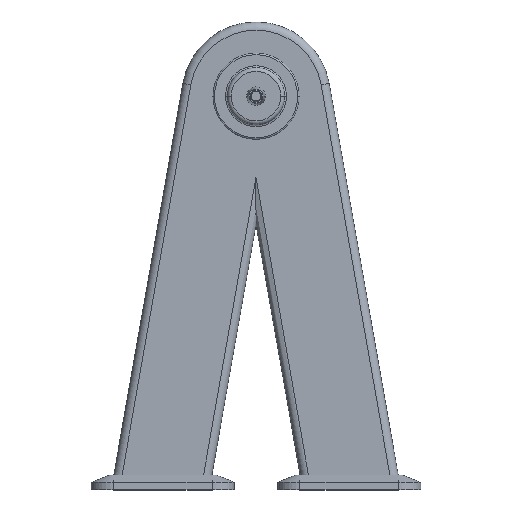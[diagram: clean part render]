
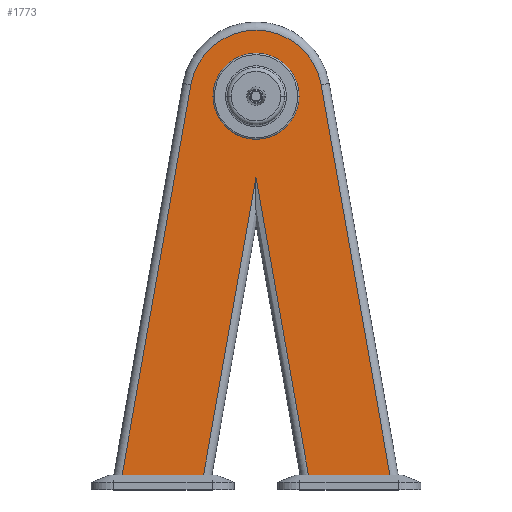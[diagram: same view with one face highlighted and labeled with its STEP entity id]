
A CAD part, top view. The second image highlights one B-rep face of the part: STEP entity #1773.
In plain terms, the highlighted planar face has unit normal (0, 0, 1).
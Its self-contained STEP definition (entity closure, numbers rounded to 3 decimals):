
#2 = CARTESIAN_POINT ( 'NONE',  ( 58., 530., 63. ) ) ;
#5 = VERTEX_POINT ( 'NONE', #2466 ) ;
#35 = ORIENTED_EDGE ( 'NONE', *, *, #2425, .F. ) ;
#63 = LINE ( 'NONE', #234, #763 ) ;
#193 = DIRECTION ( 'NONE',  ( -1., 0., 0. ) ) ;
#214 = CARTESIAN_POINT ( 'NONE',  ( -10.833, 359.147, 63. ) ) ;
#234 = CARTESIAN_POINT ( 'NONE',  ( 0., 20., 63. ) ) ;
#298 = EDGE_CURVE ( 'NONE', #2737, #5, #1933, .T. ) ;
#310 = CARTESIAN_POINT ( 'NONE',  ( 0., 20., 63. ) ) ;
#324 = ORIENTED_EDGE ( 'NONE', *, *, #298, .T. ) ;
#344 = EDGE_CURVE ( 'NONE', #2021, #2150, #692, .T. ) ;
#347 = EDGE_CURVE ( 'NONE', #2737, #2150, #63, .T. ) ;
#402 = PLANE ( 'NONE',  #2216 ) ;
#528 = DIRECTION ( 'NONE',  ( 0., 0., 1. ) ) ;
#609 = VERTEX_POINT ( 'NONE', #792 ) ;
#627 = DIRECTION ( 'NONE',  ( 1., 0., 0. ) ) ;
#692 = LINE ( 'NONE', #2349, #1727 ) ;
#703 = CARTESIAN_POINT ( 'NONE',  ( -87.648, 545.455, 63. ) ) ;
#760 = AXIS2_PLACEMENT_3D ( 'NONE', #933, #2387, #1147 ) ;
#763 = VECTOR ( 'NONE', #1108, 1000. ) ;
#792 = CARTESIAN_POINT ( 'NONE',  ( -58., 530., 63. ) ) ;
#841 = AXIS2_PLACEMENT_3D ( 'NONE', #1782, #528, #1998 ) ;
#842 = CIRCLE ( 'NONE', #1120, 58. ) ;
#894 = DIRECTION ( 'NONE',  ( -0.174, -0.985, 0. ) ) ;
#904 = ORIENTED_EDGE ( 'NONE', *, *, #1528, .F. ) ;
#933 = CARTESIAN_POINT ( 'NONE',  ( 0., 530., 63. ) ) ;
#959 = CARTESIAN_POINT ( 'NONE',  ( 0., 530., 63. ) ) ;
#960 = VECTOR ( 'NONE', #1505, 1000. ) ;
#1044 = CARTESIAN_POINT ( 'NONE',  ( 76.746, -14.664, 63. ) ) ;
#1108 = DIRECTION ( 'NONE',  ( -1., 0., 0. ) ) ;
#1120 = AXIS2_PLACEMENT_3D ( 'NONE', #959, #2417, #1172 ) ;
#1134 = VERTEX_POINT ( 'NONE', #1238 ) ;
#1143 = LINE ( 'NONE', #1044, #2240 ) ;
#1147 = DIRECTION ( 'NONE',  ( 1., 0., 0. ) ) ;
#1172 = DIRECTION ( 'NONE',  ( 1., 0., 0. ) ) ;
#1225 = CARTESIAN_POINT ( 'NONE',  ( 87.648, 545.455, 63. ) ) ;
#1238 = CARTESIAN_POINT ( 'NONE',  ( 180.3, 20., 63. ) ) ;
#1505 = DIRECTION ( 'NONE',  ( 0.174, 0.985, 0. ) ) ;
#1525 = EDGE_CURVE ( 'NONE', #2317, #2021, #1950, .T. ) ;
#1528 = EDGE_CURVE ( 'NONE', #609, #2513, #842, .T. ) ;
#1642 = LINE ( 'NONE', #2470, #2027 ) ;
#1681 = ORIENTED_EDGE ( 'NONE', *, *, #2801, .T. ) ;
#1727 = VECTOR ( 'NONE', #894, 1000. ) ;
#1773 = ADVANCED_FACE ( 'NONE', ( #2477, #1981 ), #402, .T. ) ;
#1778 = CARTESIAN_POINT ( 'NONE',  ( -180.3, 20., 63. ) ) ;
#1782 = CARTESIAN_POINT ( 'NONE',  ( 0., 530., 63. ) ) ;
#1877 = DIRECTION ( 'NONE',  ( 0., 0., 1. ) ) ;
#1878 = LINE ( 'NONE', #310, #2432 ) ;
#1890 = VERTEX_POINT ( 'NONE', #2542 ) ;
#1894 = ORIENTED_EDGE ( 'NONE', *, *, #347, .F. ) ;
#1933 = LINE ( 'NONE', #214, #960 ) ;
#1950 = CIRCLE ( 'NONE', #841, 89. ) ;
#1981 = FACE_OUTER_BOUND ( 'NONE', #2142, .T. ) ;
#1998 = DIRECTION ( 'NONE',  ( 1., 0., 0. ) ) ;
#2021 = VERTEX_POINT ( 'NONE', #703 ) ;
#2027 = VECTOR ( 'NONE', #2255, 1000. ) ;
#2104 = CIRCLE ( 'NONE', #760, 58. ) ;
#2142 = EDGE_LOOP ( 'NONE', ( #1894, #324, #1681, #35, #2369, #2603, #2816 ) ) ;
#2150 = VERTEX_POINT ( 'NONE', #1778 ) ;
#2216 = AXIS2_PLACEMENT_3D ( 'NONE', #2725, #1877, #627 ) ;
#2240 = VECTOR ( 'NONE', #2721, 1000. ) ;
#2255 = DIRECTION ( 'NONE',  ( -0.174, 0.985, 0. ) ) ;
#2278 = ORIENTED_EDGE ( 'NONE', *, *, #2518, .F. ) ;
#2317 = VERTEX_POINT ( 'NONE', #1225 ) ;
#2349 = CARTESIAN_POINT ( 'NONE',  ( -185.221, -7.91, 63. ) ) ;
#2369 = ORIENTED_EDGE ( 'NONE', *, *, #2719, .T. ) ;
#2387 = DIRECTION ( 'NONE',  ( 0., 0., 1. ) ) ;
#2417 = DIRECTION ( 'NONE',  ( 0., 0., 1. ) ) ;
#2425 = EDGE_CURVE ( 'NONE', #1134, #1890, #1878, .T. ) ;
#2432 = VECTOR ( 'NONE', #193, 1000. ) ;
#2466 = CARTESIAN_POINT ( 'NONE',  ( 0., 420.583, 63. ) ) ;
#2470 = CARTESIAN_POINT ( 'NONE',  ( 87.648, 545.455, 63. ) ) ;
#2477 = FACE_BOUND ( 'NONE', #2789, .T. ) ;
#2482 = CARTESIAN_POINT ( 'NONE',  ( -70.634, 20., 63. ) ) ;
#2513 = VERTEX_POINT ( 'NONE', #2 ) ;
#2518 = EDGE_CURVE ( 'NONE', #2513, #609, #2104, .T. ) ;
#2542 = CARTESIAN_POINT ( 'NONE',  ( 70.634, 20., 63. ) ) ;
#2603 = ORIENTED_EDGE ( 'NONE', *, *, #1525, .T. ) ;
#2719 = EDGE_CURVE ( 'NONE', #1134, #2317, #1642, .T. ) ;
#2721 = DIRECTION ( 'NONE',  ( 0.174, -0.985, 0. ) ) ;
#2725 = CARTESIAN_POINT ( 'NONE',  ( 0., 530., 63. ) ) ;
#2737 = VERTEX_POINT ( 'NONE', #2482 ) ;
#2789 = EDGE_LOOP ( 'NONE', ( #904, #2278 ) ) ;
#2801 = EDGE_CURVE ( 'NONE', #5, #1890, #1143, .T. ) ;
#2816 = ORIENTED_EDGE ( 'NONE', *, *, #344, .T. ) ;
